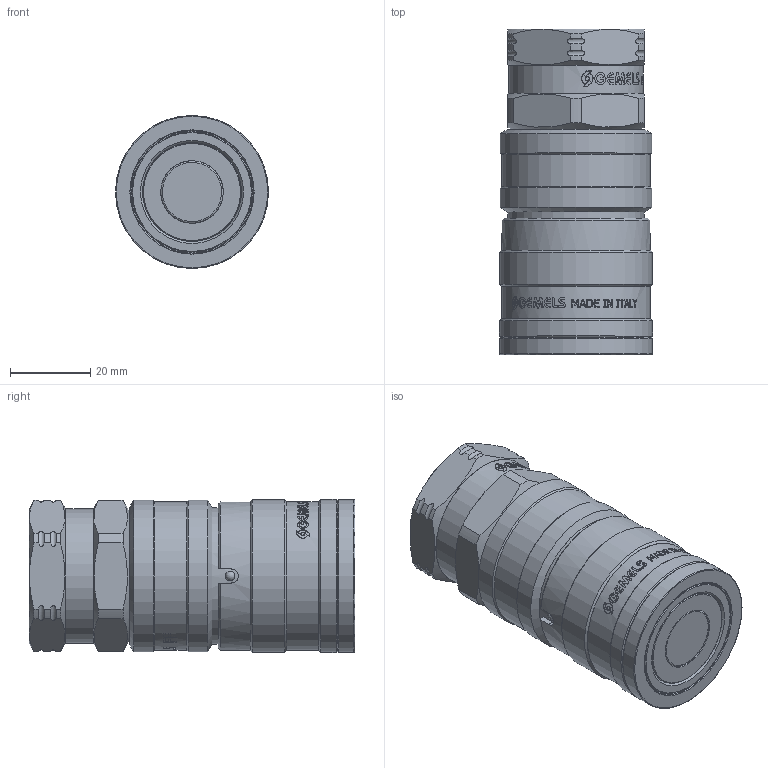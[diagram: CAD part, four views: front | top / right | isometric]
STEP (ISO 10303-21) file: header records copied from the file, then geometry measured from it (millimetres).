
FILE_DESCRIPTION(/* description */ (''),/* implementation_level */ '2;1');
FILE_NAME(/* name */ 'NC06S030003.stp',/* time_stamp */ '2024-11-22T14:52:15+01:00',/* author */ ('thomas.belotti'),/* organization */ (''),/* preprocessor_version */ 'ST-DEVELOPER v20',/* originating_system */ 'Autodesk Inventor 2024',/* authorisation */ '');
FILE_SCHEMA (('AUTOMOTIVE_DESIGN { 1 0 10303 214 3 1 1 }'));
Products named in the file (1): Parte5
Bounding box: 38.1 x 81.06 x 38.1 mm (x, y, z)
Volume: 80907.5 mm3; surface area: 15711.8 mm2
Topology: 1 solids, 3 shells, 1626 faces, 4605 edges, 3057 vertices
Faces by surface type: bspline 1045, plane 407, cylinder 127, cone 25, torus 16, sphere 6
Full cylindrical faces by diameter (mm): 2.3 x2, 15.55 x1, 15.6 x1, 17.5 x1, 18 x1, 24.55 x1, 24.65 x1, 30 x1, 30.55 x1, 32 x1, 32.3 x1, 33.5 x1, 33.9 x1, 34.1 x1, 37 x3, 37.7 x2, 38.1 x3
Entity records: 70172 total; most frequent: CARTESIAN_POINT 33263, ORIENTED_EDGE 9210, EDGE_CURVE 4605, DIRECTION 4113, VERTEX_POINT 3057, B_SPLINE_CURVE_WITH_KNOTS 2205, LINE 1795, VECTOR 1795
